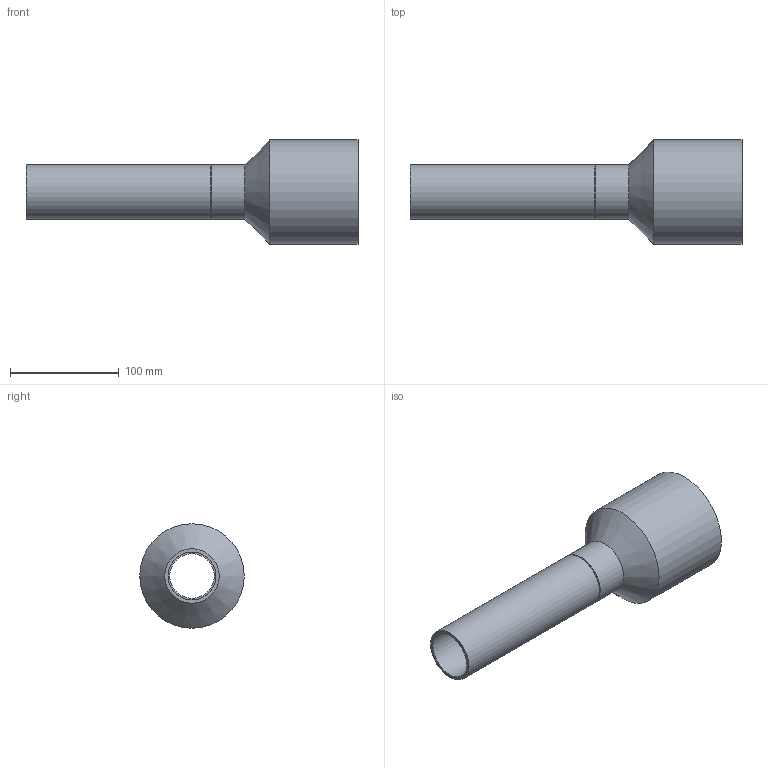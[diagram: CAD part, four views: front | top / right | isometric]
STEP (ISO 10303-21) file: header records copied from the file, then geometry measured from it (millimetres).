
FILE_DESCRIPTION(/* description */ (''),/* implementation_level */ '2;1');
FILE_NAME(/* name */ 'Z:\Geberit\Export\NewStep\152652.stp',/* time_stamp */ '2014-03-31T08:23:11+02:00',/* author */ ('nelson'),/* organization */ (''),/* preprocessor_version */ 'ST-DEVELOPER v15.2',/* originating_system */ 'Autodesk Inventor 2014',/* authorisation */ '');
FILE_SCHEMA (('AUTOMOTIVE_DESIGN { 1 0 10303 214 3 1 1 }'));
Length unit declared in the file: millimetre
Products named in the file (1): 152652
Bounding box: 305 x 96 x 96 mm (x, y, z)
Volume: 182485.6 mm3; surface area: 122419.3 mm2
Topology: 1 solids, 1 shells, 13 faces, 23 edges, 13 vertices
Faces by surface type: cylinder 6, cone 4, plane 3
Full cylindrical faces by diameter (mm): 41 x1, 44 x1, 50 x2, 90 x1, 96 x1
Entity records: 289 total; most frequent: DIRECTION 54, CARTESIAN_POINT 40, AXIS2_PLACEMENT_3D 27, EDGE_LOOP 26, ORIENTED_EDGE 26, FACE_BOUND 14, CIRCLE 13, VERTEX_POINT 13
